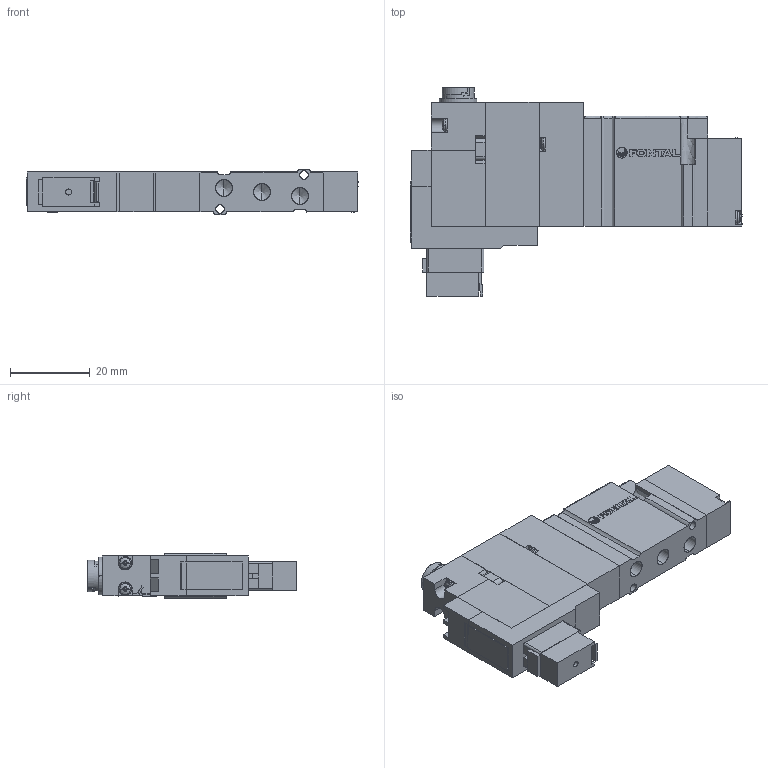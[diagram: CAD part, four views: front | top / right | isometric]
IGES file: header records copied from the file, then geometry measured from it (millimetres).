
Start section: SolidWorks IGES file using analytic representation for surfaces
Global section: file name: D:\Custom\3D繪製\ADEX\A05F\A05FS25#-#Q-#-E.IGS,1; native system: 5HSolidWorks 2014; preprocessor: SolidWorks 2014; author: Chieh_Lu; date: 150809.154324; units: millimetre
Bounding box: 83 x 52.1 x 11.4 mm (x, y, z)
Surface area: 14743.7 mm2 (no closed solid volume)
Topology: 0 solids, 0 shells, 707 faces, 5706 edges, 5678 vertices
Faces by surface type: bspline 482, revolution 225
